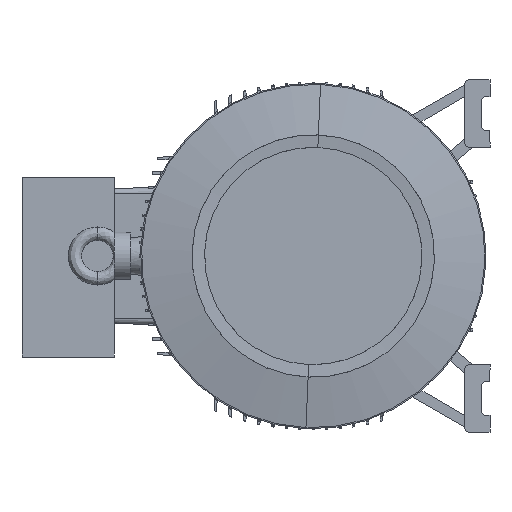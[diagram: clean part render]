
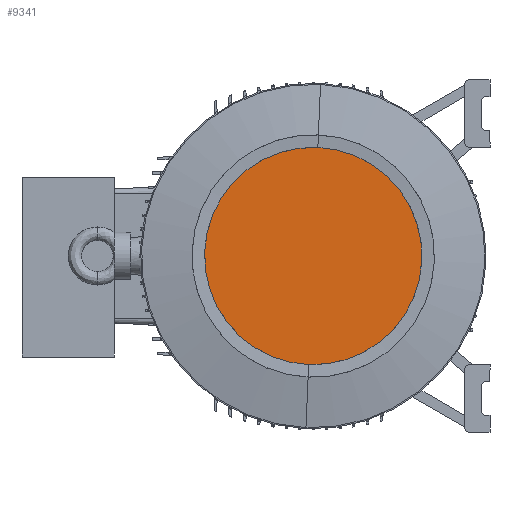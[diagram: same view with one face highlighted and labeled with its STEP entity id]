
A CAD part, left-side view. The second image highlights one B-rep face of the part: STEP entity #9341.
In plain terms, the highlighted planar face has unit normal (-1, 0, 0) as drawn and (1, 0, 0) by its records, which use the part's own axes.
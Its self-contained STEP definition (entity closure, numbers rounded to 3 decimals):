
#1232 = CARTESIAN_POINT ( 'NONE',  ( 338., 0., 0. ) ) ;
#1234 = DIRECTION ( 'NONE',  ( 1., 0., 0. ) ) ;
#1285 = DIRECTION ( 'NONE',  ( 0., 0., -1. ) ) ;
#1854 = FACE_OUTER_BOUND ( 'NONE', #25619, .T. ) ;
#3895 = VERTEX_POINT ( 'NONE', #8053 ) ;
#3912 = VERTEX_POINT ( 'NONE', #8067 ) ;
#4753 = DIRECTION ( 'NONE',  ( -1., 0., 0. ) ) ;
#4761 = DIRECTION ( 'NONE',  ( 0., 0., 1. ) ) ;
#4773 = PLANE ( 'NONE',  #7730 ) ;
#4782 = CARTESIAN_POINT ( 'NONE',  ( 338., 193.623, 0. ) ) ;
#7033 = AXIS2_PLACEMENT_3D ( 'NONE', #28737, #28758, #28745 ) ;
#7332 = AXIS2_PLACEMENT_3D ( 'NONE', #1232, #1234, #1285 ) ;
#7730 = AXIS2_PLACEMENT_3D ( 'NONE', #4782, #4753, #4761 ) ;
#8053 = CARTESIAN_POINT ( 'NONE',  ( 338., 0., -193.623 ) ) ;
#8067 = CARTESIAN_POINT ( 'NONE',  ( 338., 0., 193.623 ) ) ;
#9341 = ADVANCED_FACE ( 'NONE', ( #1854 ), #4773, .F. ) ;
#10012 = CIRCLE ( 'NONE', #7332, 193.623 ) ;
#16247 = ORIENTED_EDGE ( 'NONE', *, *, #27164, .T. ) ;
#16295 = ORIENTED_EDGE ( 'NONE', *, *, #18861, .T. ) ;
#18861 = EDGE_CURVE ( 'NONE', #3895, #3912, #20404, .T. ) ;
#20404 = CIRCLE ( 'NONE', #7033, 193.623 ) ;
#25619 = EDGE_LOOP ( 'NONE', ( #16295, #16247 ) ) ;
#27164 = EDGE_CURVE ( 'NONE', #3912, #3895, #10012, .T. ) ;
#28737 = CARTESIAN_POINT ( 'NONE',  ( 338., 0., 0. ) ) ;
#28745 = DIRECTION ( 'NONE',  ( 0., 0., -1. ) ) ;
#28758 = DIRECTION ( 'NONE',  ( 1., 0., 0. ) ) ;
